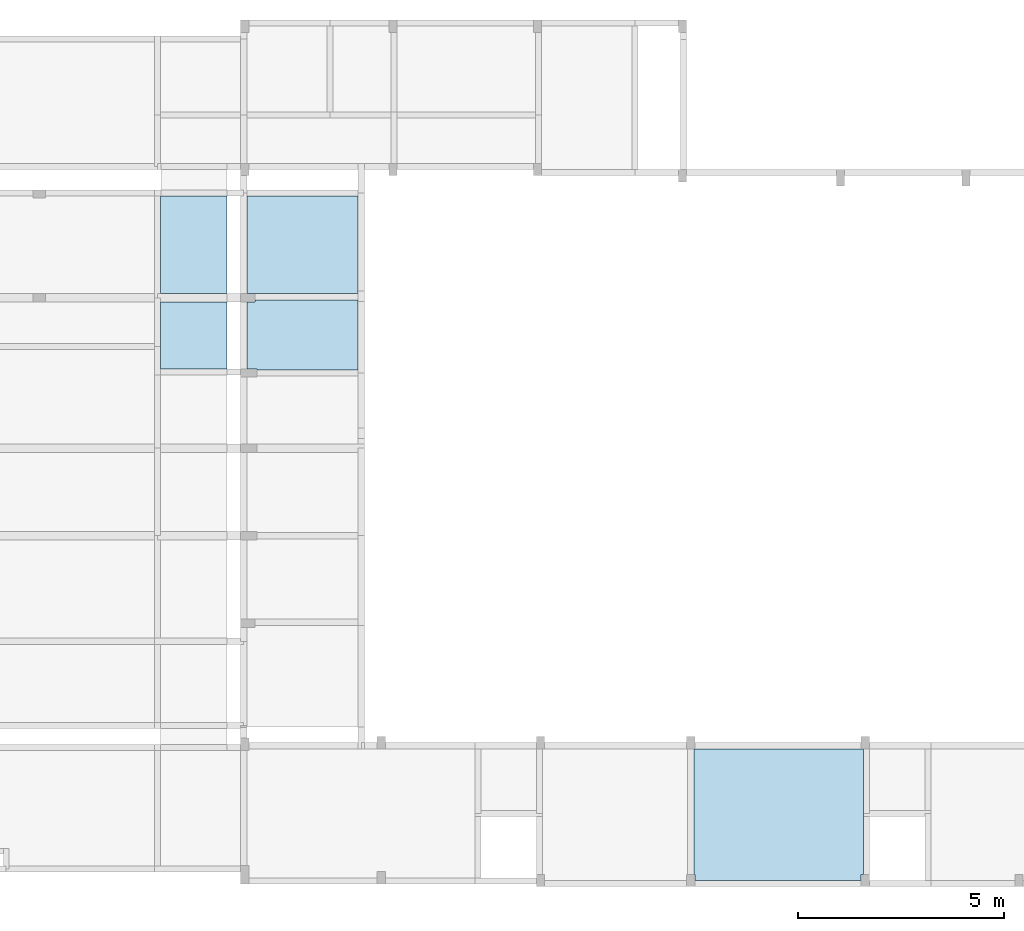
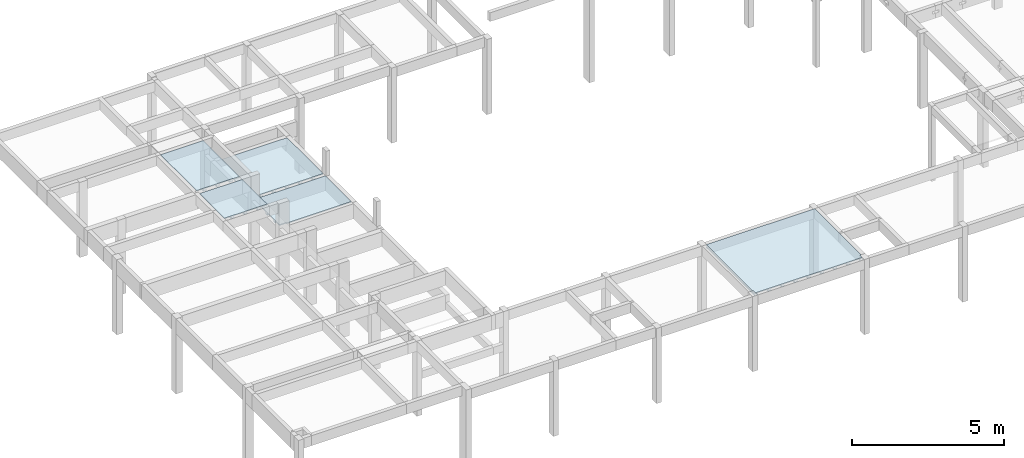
# One storey, part 13 of 21: 5 slabs.
"""IFC4 building model written with IfcOpenShell, lengths in centimetres."""

import ifcopenshell
import ifcopenshell.guid

model = None  # the IFC model being written
_history = None  # IfcOwnerHistory: only IFC2X3 demands one
_inside = {}  # id of a spatial element -> (the spatial element, [elements in it])
_under = {}  # id of a project, library or spatial element -> (it, [spatial elements below it])
_declared = {}  # id of a project -> (the project, [libraries it declares])
_typed = {}  # id of a type object -> (the type object, [elements of that type])
_made_of = {}  # id of a material, layer set ... -> (it, [elements and type objects made of it])


def new_model(schema):
    """Start an empty IFC model of exactly this schema.

    Asked for "IFC4X3", IfcOpenShell would pick the latest addendum, in which some entities
    have other attributes; the version numbers below select the first issue.
    IFC2X3 requires an IfcOwnerHistory on every rooted entity: one is made here for all.
    """
    global model, _history
    if schema == "IFC4X3":
        model = ifcopenshell.file(schema_version=(4, 3, 0, 0))
    else:
        model = ifcopenshell.file(schema=schema)
    _inside.clear()
    _under.clear()
    _declared.clear()
    _typed.clear()
    _made_of.clear()
    _history = None
    if model.schema == "IFC2X3":
        org = make("IfcOrganization", Name="unknown")
        user = make(
            "IfcPersonAndOrganization",
            ThePerson=make("IfcPerson", FamilyName="unknown"),
            TheOrganization=org,
        )
        app = make(
            "IfcApplication",
            ApplicationDeveloper=org,
            Version="unknown",
            ApplicationFullName="unknown",
            ApplicationIdentifier="unknown",
        )
        _history = make(
            "IfcOwnerHistory",
            OwningUser=user,
            OwningApplication=app,
            ChangeAction="ADDED",
            CreationDate=0,
        )
    return model


def make(cls, **values):
    """One entity of the class cls with the attributes given. An attribute that is None is left unset."""
    return model.create_entity(
        cls, **{name: value for name, value in values.items() if value is not None}
    )


def rooted(cls, **values):
    """An entity with a GlobalId (a new one), such as an element, a storey or a relation."""
    return make(cls, GlobalId=ifcopenshell.guid.new(), OwnerHistory=_history, **values)


def si_unit(unit_type, name, prefix=None):
    """IfcSIUnit, for example si_unit("LENGTHUNIT", "METRE", prefix="MILLI")."""
    return make("IfcSIUnit", UnitType=unit_type, Prefix=prefix, Name=name)


def derived_unit(unit_type, elements):
    """IfcDerivedUnit: a product of units, each with its exponent."""
    return make(
        "IfcDerivedUnit",
        Elements=[
            make("IfcDerivedUnitElement", Unit=unit, Exponent=power)
            for unit, power in elements
        ],
        UnitType=unit_type,
    )


def assignment(units):
    """IfcUnitAssignment: the units of a project."""
    return None if units is None else make("IfcUnitAssignment", Units=units)


def point(xyz):
    """IfcCartesianPoint."""
    return None if xyz is None else make("IfcCartesianPoint", Coordinates=xyz)


def direction(xyz):
    """IfcDirection."""
    return None if xyz is None else make("IfcDirection", DirectionRatios=xyz)


def frame(location, z_axis=None, x_axis=None):
    """IfcAxis2Placement3D, a coordinate frame: its origin and axes. An axis left out is left unset."""
    return make(
        "IfcAxis2Placement3D",
        Location=point(location),
        Axis=direction(z_axis),
        RefDirection=direction(x_axis),
    )


def origin_with_axes():
    """The frame at (0, 0, 0) with the z axis (0, 0, 1) and the x axis (1, 0, 0) written out."""
    return frame((0.0, 0.0, 0.0), z_axis=(0.0, 0.0, 1.0), x_axis=(1.0, 0.0, 0.0))


def place(relative_to, where):
    """IfcLocalPlacement: puts the frame where relative to a parent placement (None: the world)."""
    return make(
        "IfcLocalPlacement", PlacementRelTo=relative_to, RelativePlacement=where
    )


def context(
    kind, dimensions, precision=None, world=None, true_north=None, identifier=None
):
    """IfcGeometricRepresentationContext, for example the 3D "Model" context."""
    return make(
        "IfcGeometricRepresentationContext",
        ContextIdentifier=identifier,
        ContextType=kind,
        CoordinateSpaceDimension=dimensions,
        Precision=precision,
        WorldCoordinateSystem=world,
        TrueNorth=true_north,
    )


def project(units=None, contexts=None):
    """IfcProject with its units and contexts."""
    return rooted(
        "IfcProject",
        Name="project",
        RepresentationContexts=contexts,
        UnitsInContext=assignment(units),
    )


def spatial(cls, under=None, at=None, **own):
    """A site, building, storey or space (cls), placed at a placement, below another one or the project."""
    s = rooted(cls, ObjectPlacement=at, **own)
    if under is not None:
        _under.setdefault(under.id(), (under, []))[1].append(s)
    return s


def polyline(points):
    """IfcPolyline through the points."""
    return make("IfcPolyline", Points=[point(p) for p in points])


def outline(outer, holes=None, kind="AREA"):
    """IfcArbitraryClosedProfileDef: a profile drawn as a closed curve; with holes, ...WithVoids."""
    if holes is None:
        return make("IfcArbitraryClosedProfileDef", ProfileType=kind, OuterCurve=outer)
    return make(
        "IfcArbitraryProfileDefWithVoids",
        ProfileType=kind,
        OuterCurve=outer,
        InnerCurves=holes,
    )


def extrude(swept, where, along, depth):
    """IfcExtrudedAreaSolid: the profile swept, set in the frame where, extruded along a direction by depth."""
    return make(
        "IfcExtrudedAreaSolid",
        SweptArea=swept,
        Position=where,
        ExtrudedDirection=direction(along),
        Depth=depth,
    )


def faces_of(points, faces, orient=None, outer=None):
    """IfcFace entities. A face is a list of loops; a loop is a list of indices into points, from 0.

    orient and outer hold one flag for each loop. By default every Orientation is true, the
    first loop of a face is its IfcFaceOuterBound and the others are IfcFaceBound.
    """
    made = []
    for i, loops in enumerate(faces):
        bounds = []
        for j, loop in enumerate(loops):
            is_outer = j == 0 if outer is None else outer[i][j]
            bounds.append(
                make(
                    "IfcFaceOuterBound" if is_outer else "IfcFaceBound",
                    Bound=make("IfcPolyLoop", Polygon=[points[k] for k in loop]),
                    Orientation=True if orient is None else orient[i][j],
                )
            )
        made.append(make("IfcFace", Bounds=bounds))
    return made


def faceted_brep(points, faces, orient=None, outer=None, voids=None):
    """IfcFacetedBrep: a solid bounded by flat faces; with voids (closed shells), ...WithVoids."""
    shared = [point(p) for p in points]
    hull = make("IfcClosedShell", CfsFaces=faces_of(shared, faces, orient, outer))
    if voids is None:
        return make("IfcFacetedBrep", Outer=hull)
    return make(
        "IfcFacetedBrepWithVoids",
        Outer=hull,
        Voids=[
            make(cls, CfsFaces=faces_of(shared, fs, o, b)) for cls, fs, o, b in voids
        ],
    )


def shape(context_of_items, identifier, shape_type, items):
    """IfcShapeRepresentation: the items that make up one representation, for example the "Body"."""
    return make(
        "IfcShapeRepresentation",
        ContextOfItems=context_of_items,
        RepresentationIdentifier=identifier,
        RepresentationType=shape_type,
        Items=items,
    )


def material(Name=None, Category=None):
    """IfcMaterial."""
    return make("IfcMaterial", Name=Name, Category=Category)


def made_of(thing, what):
    """Note that an element or type object is made of a material, layer set ...; save() writes the relation."""
    if what is not None:
        _made_of.setdefault(what.id(), (what, []))[1].append(thing)
    return thing


def element(
    cls,
    number,
    at=None,
    inside=None,
    cuts=None,
    type_object=None,
    material=None,
    context=None,
    identifier="Body",
    shape_type=None,
    held_by="IfcProductDefinitionShape",
    body=None,
    shapes=None,
    **own,
):
    """One element of the class cls, such as IfcWall. Its Tag is "e" and its number.

    at: its placement. inside: the storey or other place that contains it. cuts: it is an
    opening in that element (IfcRelVoidsElement). A single representation is given by context,
    identifier, shape_type and body (its items); several are given by shapes. held_by: the class
    of the entity that holds the representations. save() writes the other relations.
    """
    e = rooted(cls, Tag="e%d" % number, ObjectPlacement=at, **own)
    if body is not None:
        shapes = [shape(context, identifier, shape_type, body)]
    if shapes is not None:
        e.Representation = make(held_by, Representations=shapes)
    if inside is not None:
        _inside.setdefault(inside.id(), (inside, []))[1].append(e)
    if cuts is not None:
        rooted(
            "IfcRelVoidsElement", RelatingBuildingElement=cuts, RelatedOpeningElement=e
        )
    if type_object is not None:
        _typed.setdefault(type_object.id(), (type_object, []))[1].append(e)
    return made_of(e, material)


def aggregate(whole, parts):
    """IfcRelAggregates: a whole, such as a stair, and the parts it consists of."""
    return rooted("IfcRelAggregates", RelatingObject=whole, RelatedObjects=parts)


def save(model, path):
    """Write the relations noted so far, then the file.

    IfcRelAggregates (storeys below a building ...), IfcRelContainedInSpatialStructure (elements
    in a storey), IfcRelDefinesByType, IfcRelAssociatesMaterial and IfcRelDeclares: one each for
    every whole, place, type object, material and project.
    """
    for whole, parts in _under.values():
        aggregate(whole, parts)
    for where, things in _inside.values():
        rooted(
            "IfcRelContainedInSpatialStructure",
            RelatedElements=things,
            RelatingStructure=where,
        )
    for kind, things in _typed.values():
        rooted("IfcRelDefinesByType", RelatedObjects=things, RelatingType=kind)
    for what, things in _made_of.values():
        rooted("IfcRelAssociatesMaterial", RelatedObjects=things, RelatingMaterial=what)
    for by, libraries in _declared.values():
        rooted("IfcRelDeclares", RelatingContext=by, RelatedDefinitions=libraries)
    model.write(path)


model = new_model("IFC4")

# Units and contexts
model_context = context("Model", 3, precision=1e-05, world=origin_with_axes(), identifier="Body")
ifc_project = project(units=[si_unit("LENGTHUNIT", "METRE", prefix="CENTI"), si_unit("VOLUMEUNIT", "CUBIC_METRE"), si_unit("AREAUNIT", "SQUARE_METRE"), si_unit("POWERUNIT", "WATT"), si_unit("LUMINOUSFLUXUNIT", "LUMEN"), si_unit("ELECTRICCURRENTUNIT", "AMPERE"), si_unit("PRESSUREUNIT", "PASCAL", prefix="KILO"), si_unit("MASSUNIT", "GRAM", prefix="KILO"), si_unit("PLANEANGLEUNIT", "RADIAN"), derived_unit("VOLUMETRICFLOWRATEUNIT", [(si_unit("LENGTHUNIT", "METRE"), 3), (si_unit("TIMEUNIT", "SECOND"), -1)])], contexts=[model_context])

# Site, building, storey
site_placement = place(None, origin_with_axes())
site = spatial("IfcSite", under=ifc_project, at=site_placement)
building_placement = place(site_placement, frame((0.0, 0.0, -295.0)))
building = spatial("IfcBuilding", under=site, at=building_placement)
placement_1 = place(building_placement, origin_with_axes())
placement_2 = place(placement_1, frame((0.0, 0.0, 101.0), z_axis=(0.0, 0.0, 1.0), x_axis=(1.0, 0.0, 0.0)))
placement_3 = place(placement_2, frame((0.0, 0.0, 204.0), z_axis=(0.0, 0.0, 1.0), x_axis=(1.0, 0.0, 0.0)))
placement_4 = place(placement_3, frame((0.0, 0.0, 292.0), z_axis=(0.0, 0.0, 1.0), x_axis=(1.0, 0.0, 0.0)))
storey_placement = place(placement_4, frame((0.0, 0.0, 302.0), z_axis=(0.0, 0.0, 1.0), x_axis=(1.0, 0.0, 0.0)))
storey = spatial("IfcBuildingStorey", under=building, at=storey_placement, Name="PAVTO 02", CompositionType="ELEMENT", Elevation=604.0)

# Slabs
ifc_material = material(Name="Concreto")
slab_1_placement = place(storey_placement, frame((1059.9855, -5618.0, 0.0), z_axis=(0.0, 0.0, 1.0), x_axis=(1.0, 0.0, 0.0)))
element("IfcSlab", 1, at=slab_1_placement, inside=storey, material=ifc_material, Name="L214", PredefinedType="FLOOR", context=model_context, shape_type="SolidModel", body=[
    extrude(outline(polyline([(80.915, 118.84), (-80.914, 118.839), (-80.914, -118.839), (80.915, -118.84), (80.915, 118.84), (80.915, 118.84)])), frame((-0.0005, 0.0, -4.0), z_axis=(0.0, 0.0, 1.0), x_axis=(1.0, 0.0, 0.0)), (0.0, 0.0, 1.0), 4.0),
    faceted_brep([(-5.0005, -118.8395, -12.0), (-5.0005, 118.8395, -12.0), (4.9995, 118.8395, -12.0), (4.9995, -118.8395, -12.0), (4.9995, -118.8395, -4.0), (4.9995, 118.8395, -4.0), (-5.0005, 118.8395, -4.0), (-5.0005, -118.8395, -4.0)], [[[0, 1, 2, 3]], [[4, 5, 6, 7]], [[4, 3, 5]], [[3, 2, 5]], [[5, 2, 6]], [[2, 1, 6]], [[6, 1, 7]], [[1, 0, 7]], [[7, 0, 4]], [[0, 3, 4]]]),
    faceted_brep([(-6.5005, -118.8395, -12.0), (-6.5005, 118.8395, -12.0), (-5.0005, 118.8395, -12.0), (-5.0005, -118.8395, -12.0), (-5.0005, -118.8395, -9.0), (-5.0005, 118.8395, -9.0), (-6.5005, 118.8395, -9.0), (-6.5005, -118.8395, -9.0)], [[[0, 1, 2, 3]], [[4, 5, 6, 7]], [[4, 3, 5]], [[3, 2, 5]], [[5, 2, 6]], [[2, 1, 6]], [[6, 1, 7]], [[1, 0, 7]], [[7, 0, 4]], [[0, 3, 4]]]),
    faceted_brep([(4.9995, -118.8395, -12.0), (4.9995, 118.8395, -12.0), (6.4995, 118.8395, -12.0), (6.4995, -118.8395, -12.0), (6.4995, -118.8395, -9.0), (6.4995, 118.8395, -9.0), (4.9995, 118.8395, -9.0), (4.9995, -118.8395, -9.0)], [[[0, 1, 2, 3]], [[4, 5, 6, 7]], [[4, 3, 5]], [[3, 2, 5]], [[5, 2, 6]], [[2, 1, 6]], [[6, 1, 7]], [[1, 0, 7]], [[7, 0, 4]], [[0, 3, 4]]]),
    faceted_brep([(-55.0005, -118.8395, -12.0), (-55.0005, 118.8395, -12.0), (-45.0005, 118.8395, -12.0), (-45.0005, -118.8395, -12.0), (-45.0005, -118.8395, -4.0), (-45.0005, 118.8395, -4.0), (-55.0005, 118.8395, -4.0), (-55.0005, -118.8395, -4.0)], [[[0, 1, 2, 3]], [[4, 5, 6, 7]], [[4, 3, 5]], [[3, 2, 5]], [[5, 2, 6]], [[2, 1, 6]], [[6, 1, 7]], [[1, 0, 7]], [[7, 0, 4]], [[0, 3, 4]]]),
    faceted_brep([(-56.5005, -118.8395, -12.0), (-56.5005, 118.8395, -12.0), (-55.0005, 118.8395, -12.0), (-55.0005, -118.8395, -12.0), (-55.0005, -118.8395, -9.0), (-55.0005, 118.8395, -9.0), (-56.5005, 118.8395, -9.0), (-56.5005, -118.8395, -9.0)], [[[0, 1, 2, 3]], [[4, 5, 6, 7]], [[4, 3, 5]], [[3, 2, 5]], [[5, 2, 6]], [[2, 1, 6]], [[6, 1, 7]], [[1, 0, 7]], [[7, 0, 4]], [[0, 3, 4]]]),
    faceted_brep([(-45.0005, -118.8395, -12.0), (-45.0005, 118.8395, -12.0), (-43.5005, 118.8395, -12.0), (-43.5005, -118.8395, -12.0), (-43.5005, -118.8395, -9.0), (-43.5005, 118.8395, -9.0), (-45.0005, 118.8395, -9.0), (-45.0005, -118.8395, -9.0)], [[[0, 1, 2, 3]], [[4, 5, 6, 7]], [[4, 3, 5]], [[3, 2, 5]], [[5, 2, 6]], [[2, 1, 6]], [[6, 1, 7]], [[1, 0, 7]], [[7, 0, 4]], [[0, 3, 4]]]),
    faceted_brep([(44.9995, -118.8395, -12.0), (44.9995, 118.8395, -12.0), (54.9995, 118.8395, -12.0), (54.9995, -118.8395, -12.0), (54.9995, -118.8395, -4.0), (54.9995, 118.8395, -4.0), (44.9995, 118.8395, -4.0), (44.9995, -118.8395, -4.0)], [[[0, 1, 2, 3]], [[4, 5, 6, 7]], [[4, 3, 5]], [[3, 2, 5]], [[5, 2, 6]], [[2, 1, 6]], [[6, 1, 7]], [[1, 0, 7]], [[7, 0, 4]], [[0, 3, 4]]]),
    faceted_brep([(43.4995, -118.8395, -12.0), (43.4995, 118.8395, -12.0), (44.9995, 118.8395, -12.0), (44.9995, -118.8395, -12.0), (44.9995, -118.8395, -9.0), (44.9995, 118.8395, -9.0), (43.4995, 118.8395, -9.0), (43.4995, -118.8395, -9.0)], [[[0, 1, 2, 3]], [[4, 5, 6, 7]], [[4, 3, 5]], [[3, 2, 5]], [[5, 2, 6]], [[2, 1, 6]], [[6, 1, 7]], [[1, 0, 7]], [[7, 0, 4]], [[0, 3, 4]]]),
    faceted_brep([(54.9995, -118.8395, -12.0), (54.9995, 118.8395, -12.0), (56.4995, 118.8395, -12.0), (56.4995, -118.8395, -12.0), (56.4995, -118.8395, -9.0), (56.4995, 118.8395, -9.0), (54.9995, 118.8395, -9.0), (54.9995, -118.8395, -9.0)], [[[0, 1, 2, 3]], [[4, 5, 6, 7]], [[4, 3, 5]], [[3, 2, 5]], [[5, 2, 6]], [[2, 1, 6]], [[6, 1, 7]], [[1, 0, 7]], [[7, 0, 4]], [[0, 3, 4]]]),
])
slab_2_placement = place(storey_placement, frame((1059.985, -5838.3455, 0.0), z_axis=(0.0, 0.0, 1.0), x_axis=(1.0, 0.0, 0.0)))
element("IfcSlab", 2, at=slab_2_placement, inside=storey, material=ifc_material, Name="L218", PredefinedType="FLOOR", context=model_context, shape_type="SolidModel", body=[
    extrude(outline(polyline([(80.915, 81.504), (-80.915, 81.504), (-80.915, -81.505), (80.915, -81.505), (80.915, 81.504), (80.915, 81.504)])), frame((0.0, 0.0005, -4.0), z_axis=(0.0, 0.0, 1.0), x_axis=(1.0, 0.0, 0.0)), (0.0, 0.0, 1.0), 4.0),
    faceted_brep([(-5.0, -81.5045, -12.0), (-5.0, 81.5045, -12.0), (5.0, 81.5045, -12.0), (5.0, -81.5045, -12.0), (5.0, -81.5045, -4.0), (5.0, 81.5045, -4.0), (-5.0, 81.5045, -4.0), (-5.0, -81.5045, -4.0)], [[[0, 1, 2, 3]], [[4, 5, 6, 7]], [[4, 3, 5]], [[3, 2, 5]], [[5, 2, 6]], [[2, 1, 6]], [[6, 1, 7]], [[1, 0, 7]], [[7, 0, 4]], [[0, 3, 4]]]),
    faceted_brep([(-6.5, -81.5045, -12.0), (-6.5, 81.5045, -12.0), (-5.0, 81.5045, -12.0), (-5.0, -81.5045, -12.0), (-5.0, -81.5045, -9.0), (-5.0, 81.5045, -9.0), (-6.5, 81.5045, -9.0), (-6.5, -81.5045, -9.0)], [[[0, 1, 2, 3]], [[4, 5, 6, 7]], [[4, 3, 5]], [[3, 2, 5]], [[5, 2, 6]], [[2, 1, 6]], [[6, 1, 7]], [[1, 0, 7]], [[7, 0, 4]], [[0, 3, 4]]]),
    faceted_brep([(5.0, -81.5045, -12.0), (5.0, 81.5045, -12.0), (6.5, 81.5045, -12.0), (6.5, -81.5045, -12.0), (6.5, -81.5045, -9.0), (6.5, 81.5045, -9.0), (5.0, 81.5045, -9.0), (5.0, -81.5045, -9.0)], [[[0, 1, 2, 3]], [[4, 5, 6, 7]], [[4, 3, 5]], [[3, 2, 5]], [[5, 2, 6]], [[2, 1, 6]], [[6, 1, 7]], [[1, 0, 7]], [[7, 0, 4]], [[0, 3, 4]]]),
    faceted_brep([(-55.0, -81.5045, -12.0), (-55.0, 81.5045, -12.0), (-45.0, 81.5045, -12.0), (-45.0, -81.5045, -12.0), (-45.0, -81.5045, -4.0), (-45.0, 81.5045, -4.0), (-55.0, 81.5045, -4.0), (-55.0, -81.5045, -4.0)], [[[0, 1, 2, 3]], [[4, 5, 6, 7]], [[4, 3, 5]], [[3, 2, 5]], [[5, 2, 6]], [[2, 1, 6]], [[6, 1, 7]], [[1, 0, 7]], [[7, 0, 4]], [[0, 3, 4]]]),
    faceted_brep([(-56.5, -81.5045, -12.0), (-56.5, 81.5045, -12.0), (-55.0, 81.5045, -12.0), (-55.0, -81.5045, -12.0), (-55.0, -81.5045, -9.0), (-55.0, 81.5045, -9.0), (-56.5, 81.5045, -9.0), (-56.5, -81.5045, -9.0)], [[[0, 1, 2, 3]], [[4, 5, 6, 7]], [[4, 3, 5]], [[3, 2, 5]], [[5, 2, 6]], [[2, 1, 6]], [[6, 1, 7]], [[1, 0, 7]], [[7, 0, 4]], [[0, 3, 4]]]),
    faceted_brep([(-45.0, -81.5045, -12.0), (-45.0, 81.5045, -12.0), (-43.5, 81.5045, -12.0), (-43.5, -81.5045, -12.0), (-43.5, -81.5045, -9.0), (-43.5, 81.5045, -9.0), (-45.0, 81.5045, -9.0), (-45.0, -81.5045, -9.0)], [[[0, 1, 2, 3]], [[4, 5, 6, 7]], [[4, 3, 5]], [[3, 2, 5]], [[5, 2, 6]], [[2, 1, 6]], [[6, 1, 7]], [[1, 0, 7]], [[7, 0, 4]], [[0, 3, 4]]]),
    faceted_brep([(45.0, -81.5045, -12.0), (45.0, 81.5045, -12.0), (55.0, 81.5045, -12.0), (55.0, -81.5045, -12.0), (55.0, -81.5045, -4.0), (55.0, 81.5045, -4.0), (45.0, 81.5045, -4.0), (45.0, -81.5045, -4.0)], [[[0, 1, 2, 3]], [[4, 5, 6, 7]], [[4, 3, 5]], [[3, 2, 5]], [[5, 2, 6]], [[2, 1, 6]], [[6, 1, 7]], [[1, 0, 7]], [[7, 0, 4]], [[0, 3, 4]]]),
    faceted_brep([(43.5, -81.5045, -12.0), (43.5, 81.5045, -12.0), (45.0, 81.5045, -12.0), (45.0, -81.5045, -12.0), (45.0, -81.5045, -9.0), (45.0, 81.5045, -9.0), (43.5, 81.5045, -9.0), (43.5, -81.5045, -9.0)], [[[0, 1, 2, 3]], [[4, 5, 6, 7]], [[4, 3, 5]], [[3, 2, 5]], [[5, 2, 6]], [[2, 1, 6]], [[6, 1, 7]], [[1, 0, 7]], [[7, 0, 4]], [[0, 3, 4]]]),
    faceted_brep([(55.0, -81.5045, -12.0), (55.0, 81.5045, -12.0), (56.5, 81.5045, -12.0), (56.5, -81.5045, -12.0), (56.5, -81.5045, -9.0), (56.5, 81.5045, -9.0), (55.0, 81.5045, -9.0), (55.0, -81.5045, -9.0)], [[[0, 1, 2, 3]], [[4, 5, 6, 7]], [[4, 3, 5]], [[3, 2, 5]], [[5, 2, 6]], [[2, 1, 6]], [[6, 1, 7]], [[1, 0, 7]], [[7, 0, 4]], [[0, 3, 4]]]),
])
slab_3_placement = place(storey_placement, frame((2482.415, -7004.254998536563, 0.0), z_axis=(0.0, 0.0, 1.0), x_axis=(1.0, 0.0, 0.0)))
element("IfcSlab", 3, at=slab_3_placement, inside=storey, material=ifc_material, Name="L241", PredefinedType="FLOOR", context=model_context, shape_type="SolidModel", body=[
    extrude(outline(polyline([(201.184, -145.055), (206.184, -145.054), (206.184, 160.055), (-206.184, 160.055), (-206.185, -145.054), (-203.684, -145.055), (-203.684, -160.054), (201.185, -160.055), (201.184, -145.055), (201.184, -145.055)])), frame((0.0, 0.0, -4.0), z_axis=(0.0, 0.0, 1.0), x_axis=(1.0, 0.0, 0.0)), (0.0, 0.0, 1.0), 4.0),
    faceted_brep([(-5.0, -160.0545014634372, -12.0), (-5.0, 160.0549985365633, -12.0), (5.0, 160.0549985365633, -12.0), (5.0, -160.0545014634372, -12.0), (5.0, -160.0545014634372, -4.0), (5.0, 160.0549985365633, -4.0), (-5.0, 160.0549985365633, -4.0), (-5.0, -160.0545014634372, -4.0)], [[[0, 1, 2, 3]], [[4, 5, 6, 7]], [[4, 3, 5]], [[3, 2, 5]], [[5, 2, 6]], [[2, 1, 6]], [[6, 1, 7]], [[1, 0, 7]], [[7, 0, 4]], [[0, 3, 4]]]),
    faceted_brep([(-6.5, -160.0545014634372, -12.0), (-6.5, 160.0549985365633, -12.0), (-5.0, 160.0549985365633, -12.0), (-5.0, -160.0545014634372, -12.0), (-5.0, -160.0545014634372, -9.0), (-5.0, 160.0549985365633, -9.0), (-6.5, 160.0549985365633, -9.0), (-6.5, -160.0545014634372, -9.0)], [[[0, 1, 2, 3]], [[4, 5, 6, 7]], [[4, 3, 5]], [[3, 2, 5]], [[5, 2, 6]], [[2, 1, 6]], [[6, 1, 7]], [[1, 0, 7]], [[7, 0, 4]], [[0, 3, 4]]]),
    faceted_brep([(5.0, -160.0545014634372, -12.0), (5.0, 160.0549985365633, -12.0), (6.5, 160.0549985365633, -12.0), (6.5, -160.0545014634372, -12.0), (6.5, -160.0545014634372, -9.0), (6.5, 160.0549985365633, -9.0), (5.0, 160.0549985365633, -9.0), (5.0, -160.0545014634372, -9.0)], [[[0, 1, 2, 3]], [[4, 5, 6, 7]], [[4, 3, 5]], [[3, 2, 5]], [[5, 2, 6]], [[2, 1, 6]], [[6, 1, 7]], [[1, 0, 7]], [[7, 0, 4]], [[0, 3, 4]]]),
    faceted_brep([(-55.0, -160.0545014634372, -12.0), (-55.0, 160.0549985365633, -12.0), (-45.0, 160.0549985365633, -12.0), (-45.0, -160.0545014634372, -12.0), (-45.0, -160.0545014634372, -4.0), (-45.0, 160.0549985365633, -4.0), (-55.0, 160.0549985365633, -4.0), (-55.0, -160.0545014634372, -4.0)], [[[0, 1, 2, 3]], [[4, 5, 6, 7]], [[4, 3, 5]], [[3, 2, 5]], [[5, 2, 6]], [[2, 1, 6]], [[6, 1, 7]], [[1, 0, 7]], [[7, 0, 4]], [[0, 3, 4]]]),
    faceted_brep([(-56.5, -160.0545014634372, -12.0), (-56.5, 160.0549985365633, -12.0), (-55.0, 160.0549985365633, -12.0), (-55.0, -160.0545014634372, -12.0), (-55.0, -160.0545014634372, -9.0), (-55.0, 160.0549985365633, -9.0), (-56.5, 160.0549985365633, -9.0), (-56.5, -160.0545014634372, -9.0)], [[[0, 1, 2, 3]], [[4, 5, 6, 7]], [[4, 3, 5]], [[3, 2, 5]], [[5, 2, 6]], [[2, 1, 6]], [[6, 1, 7]], [[1, 0, 7]], [[7, 0, 4]], [[0, 3, 4]]]),
    faceted_brep([(-45.0, -160.0545014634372, -12.0), (-45.0, 160.0549985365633, -12.0), (-43.5, 160.0549985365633, -12.0), (-43.5, -160.0545014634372, -12.0), (-43.5, -160.0545014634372, -9.0), (-43.5, 160.0549985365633, -9.0), (-45.0, 160.0549985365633, -9.0), (-45.0, -160.0545014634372, -9.0)], [[[0, 1, 2, 3]], [[4, 5, 6, 7]], [[4, 3, 5]], [[3, 2, 5]], [[5, 2, 6]], [[2, 1, 6]], [[6, 1, 7]], [[1, 0, 7]], [[7, 0, 4]], [[0, 3, 4]]]),
    faceted_brep([(-105.0, -160.0545014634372, -12.0), (-105.0, 160.0549985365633, -12.0), (-95.0, 160.0549985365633, -12.0), (-95.0, -160.0545014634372, -12.0), (-95.0, -160.0545014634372, -4.0), (-95.0, 160.0549985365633, -4.0), (-105.0, 160.0549985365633, -4.0), (-105.0, -160.0545014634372, -4.0)], [[[0, 1, 2, 3]], [[4, 5, 6, 7]], [[4, 3, 5]], [[3, 2, 5]], [[5, 2, 6]], [[2, 1, 6]], [[6, 1, 7]], [[1, 0, 7]], [[7, 0, 4]], [[0, 3, 4]]]),
    faceted_brep([(-106.5, -160.0545014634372, -12.0), (-106.5, 160.0549985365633, -12.0), (-105.0, 160.0549985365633, -12.0), (-105.0, -160.0545014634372, -12.0), (-105.0, -160.0545014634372, -9.0), (-105.0, 160.0549985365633, -9.0), (-106.5, 160.0549985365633, -9.0), (-106.5, -160.0545014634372, -9.0)], [[[0, 1, 2, 3]], [[4, 5, 6, 7]], [[4, 3, 5]], [[3, 2, 5]], [[5, 2, 6]], [[2, 1, 6]], [[6, 1, 7]], [[1, 0, 7]], [[7, 0, 4]], [[0, 3, 4]]]),
    faceted_brep([(-95.0, -160.0545014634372, -12.0), (-95.0, 160.0549985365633, -12.0), (-93.5, 160.0549985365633, -12.0), (-93.5, -160.0545014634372, -12.0), (-93.5, -160.0545014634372, -9.0), (-93.5, 160.0549985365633, -9.0), (-95.0, 160.0549985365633, -9.0), (-95.0, -160.0545014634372, -9.0)], [[[0, 1, 2, 3]], [[4, 5, 6, 7]], [[4, 3, 5]], [[3, 2, 5]], [[5, 2, 6]], [[2, 1, 6]], [[6, 1, 7]], [[1, 0, 7]], [[7, 0, 4]], [[0, 3, 4]]]),
    faceted_brep([(-155.0, -160.0545014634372, -12.0), (-155.0, 160.0549985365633, -12.0), (-145.0, 160.0549985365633, -12.0), (-145.0, -160.0545014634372, -12.0), (-145.0, -160.0545014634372, -4.0), (-145.0, 160.0549985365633, -4.0), (-155.0, 160.0549985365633, -4.0), (-155.0, -160.0545014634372, -4.0)], [[[0, 1, 2, 3]], [[4, 5, 6, 7]], [[4, 3, 5]], [[3, 2, 5]], [[5, 2, 6]], [[2, 1, 6]], [[6, 1, 7]], [[1, 0, 7]], [[7, 0, 4]], [[0, 3, 4]]]),
    faceted_brep([(-156.5, -160.0545014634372, -12.0), (-156.5, 160.0549985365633, -12.0), (-155.0, 160.0549985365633, -12.0), (-155.0, -160.0545014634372, -12.0), (-155.0, -160.0545014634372, -9.0), (-155.0, 160.0549985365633, -9.0), (-156.5, 160.0549985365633, -9.0), (-156.5, -160.0545014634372, -9.0)], [[[0, 1, 2, 3]], [[4, 5, 6, 7]], [[4, 3, 5]], [[3, 2, 5]], [[5, 2, 6]], [[2, 1, 6]], [[6, 1, 7]], [[1, 0, 7]], [[7, 0, 4]], [[0, 3, 4]]]),
    faceted_brep([(-145.0, -160.0545014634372, -12.0), (-145.0, 160.0549985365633, -12.0), (-143.5, 160.0549985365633, -12.0), (-143.5, -160.0545014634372, -12.0), (-143.5, -160.0545014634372, -9.0), (-143.5, 160.0549985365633, -9.0), (-145.0, 160.0549985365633, -9.0), (-145.0, -160.0545014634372, -9.0)], [[[0, 1, 2, 3]], [[4, 5, 6, 7]], [[4, 3, 5]], [[3, 2, 5]], [[5, 2, 6]], [[2, 1, 6]], [[6, 1, 7]], [[1, 0, 7]], [[7, 0, 4]], [[0, 3, 4]]]),
    faceted_brep([(-205.0, -145.0545014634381, -12.0), (-205.0, 160.0549985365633, -12.0), (-195.0, 160.0549985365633, -12.0), (-195.0, -160.0545014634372, -12.0), (-195.0, -160.0545014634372, -4.0), (-195.0, 160.0549985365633, -4.0), (-205.0, 160.0549985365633, -4.0), (-205.0, -145.0545014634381, -4.0)], [[[0, 1, 2, 3]], [[4, 5, 6, 7]], [[4, 3, 5]], [[3, 2, 5]], [[5, 2, 6]], [[2, 1, 6]], [[6, 1, 7]], [[1, 0, 7]], [[7, 0, 4]], [[0, 3, 4]]]),
    faceted_brep([(-206.5, -160.0540105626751, -12.0), (-206.5, 160.0549985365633, -12.0), (-205.0, 160.0549985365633, -12.0), (-205.0, -160.0540105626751, -12.0), (-205.0, -160.0540105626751, -9.0), (-205.0, 160.0549985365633, -9.0), (-206.5, 160.0549985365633, -9.0), (-206.5, -160.0540105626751, -9.0)], [[[0, 1, 2, 3]], [[4, 5, 6, 7]], [[4, 3, 5]], [[3, 2, 5]], [[5, 2, 6]], [[2, 1, 6]], [[6, 1, 7]], [[1, 0, 7]], [[7, 0, 4]], [[0, 3, 4]]]),
    faceted_brep([(-195.0, -160.0545014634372, -12.0), (-195.0, 160.0549985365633, -12.0), (-193.5, 160.0549985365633, -12.0), (-193.5, -160.0545014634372, -12.0), (-193.5, -160.0545014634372, -9.0), (-193.5, 160.0549985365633, -9.0), (-195.0, 160.0549985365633, -9.0), (-195.0, -160.0545014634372, -9.0)], [[[0, 1, 2, 3]], [[4, 5, 6, 7]], [[4, 3, 5]], [[3, 2, 5]], [[5, 2, 6]], [[2, 1, 6]], [[6, 1, 7]], [[1, 0, 7]], [[7, 0, 4]], [[0, 3, 4]]]),
    faceted_brep([(45.0, -160.0545014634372, -12.0), (45.0, 160.0549985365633, -12.0), (55.0, 160.0549985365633, -12.0), (55.0, -160.0545014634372, -12.0), (55.0, -160.0545014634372, -4.0), (55.0, 160.0549985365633, -4.0), (45.0, 160.0549985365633, -4.0), (45.0, -160.0545014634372, -4.0)], [[[0, 1, 2, 3]], [[4, 5, 6, 7]], [[4, 3, 5]], [[3, 2, 5]], [[5, 2, 6]], [[2, 1, 6]], [[6, 1, 7]], [[1, 0, 7]], [[7, 0, 4]], [[0, 3, 4]]]),
    faceted_brep([(43.5, -160.0545014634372, -12.0), (43.5, 160.0549985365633, -12.0), (45.0, 160.0549985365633, -12.0), (45.0, -160.0545014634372, -12.0), (45.0, -160.0545014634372, -9.0), (45.0, 160.0549985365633, -9.0), (43.5, 160.0549985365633, -9.0), (43.5, -160.0545014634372, -9.0)], [[[0, 1, 2, 3]], [[4, 5, 6, 7]], [[4, 3, 5]], [[3, 2, 5]], [[5, 2, 6]], [[2, 1, 6]], [[6, 1, 7]], [[1, 0, 7]], [[7, 0, 4]], [[0, 3, 4]]]),
    faceted_brep([(55.0, -160.0545014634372, -12.0), (55.0, 160.0549985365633, -12.0), (56.5, 160.0549985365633, -12.0), (56.5, -160.0545014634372, -12.0), (56.5, -160.0545014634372, -9.0), (56.5, 160.0549985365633, -9.0), (55.0, 160.0549985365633, -9.0), (55.0, -160.0545014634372, -9.0)], [[[0, 1, 2, 3]], [[4, 5, 6, 7]], [[4, 3, 5]], [[3, 2, 5]], [[5, 2, 6]], [[2, 1, 6]], [[6, 1, 7]], [[1, 0, 7]], [[7, 0, 4]], [[0, 3, 4]]]),
    faceted_brep([(95.0, -160.0545014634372, -12.0), (95.0, 160.0549985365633, -12.0), (105.0, 160.0549985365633, -12.0), (105.0, -160.0545014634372, -12.0), (105.0, -160.0545014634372, -4.0), (105.0, 160.0549985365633, -4.0), (95.0, 160.0549985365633, -4.0), (95.0, -160.0545014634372, -4.0)], [[[0, 1, 2, 3]], [[4, 5, 6, 7]], [[4, 3, 5]], [[3, 2, 5]], [[5, 2, 6]], [[2, 1, 6]], [[6, 1, 7]], [[1, 0, 7]], [[7, 0, 4]], [[0, 3, 4]]]),
    faceted_brep([(93.5, -160.0545014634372, -12.0), (93.5, 160.0549985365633, -12.0), (95.0, 160.0549985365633, -12.0), (95.0, -160.0545014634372, -12.0), (95.0, -160.0545014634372, -9.0), (95.0, 160.0549985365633, -9.0), (93.5, 160.0549985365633, -9.0), (93.5, -160.0545014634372, -9.0)], [[[0, 1, 2, 3]], [[4, 5, 6, 7]], [[4, 3, 5]], [[3, 2, 5]], [[5, 2, 6]], [[2, 1, 6]], [[6, 1, 7]], [[1, 0, 7]], [[7, 0, 4]], [[0, 3, 4]]]),
    faceted_brep([(105.0, -160.0545014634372, -12.0), (105.0, 160.0549985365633, -12.0), (106.5, 160.0549985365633, -12.0), (106.5, -160.0545014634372, -12.0), (106.5, -160.0545014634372, -9.0), (106.5, 160.0549985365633, -9.0), (105.0, 160.0549985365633, -9.0), (105.0, -160.0545014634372, -9.0)], [[[0, 1, 2, 3]], [[4, 5, 6, 7]], [[4, 3, 5]], [[3, 2, 5]], [[5, 2, 6]], [[2, 1, 6]], [[6, 1, 7]], [[1, 0, 7]], [[7, 0, 4]], [[0, 3, 4]]]),
    faceted_brep([(145.0, -160.0545014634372, -12.0), (145.0, 160.0549985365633, -12.0), (155.0, 160.0549985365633, -12.0), (155.0, -160.0545014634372, -12.0), (155.0, -160.0545014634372, -4.0), (155.0, 160.0549985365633, -4.0), (145.0, 160.0549985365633, -4.0), (145.0, -160.0545014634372, -4.0)], [[[0, 1, 2, 3]], [[4, 5, 6, 7]], [[4, 3, 5]], [[3, 2, 5]], [[5, 2, 6]], [[2, 1, 6]], [[6, 1, 7]], [[1, 0, 7]], [[7, 0, 4]], [[0, 3, 4]]]),
    faceted_brep([(143.5, -160.0545014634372, -12.0), (143.5, 160.0549985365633, -12.0), (145.0, 160.0549985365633, -12.0), (145.0, -160.0545014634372, -12.0), (145.0, -160.0545014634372, -9.0), (145.0, 160.0549985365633, -9.0), (143.5, 160.0549985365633, -9.0), (143.5, -160.0545014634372, -9.0)], [[[0, 1, 2, 3]], [[4, 5, 6, 7]], [[4, 3, 5]], [[3, 2, 5]], [[5, 2, 6]], [[2, 1, 6]], [[6, 1, 7]], [[1, 0, 7]], [[7, 0, 4]], [[0, 3, 4]]]),
    faceted_brep([(155.0, -160.0545014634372, -12.0), (155.0, 160.0549985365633, -12.0), (156.5, 160.0549985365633, -12.0), (156.5, -160.0545014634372, -12.0), (156.5, -160.0545014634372, -9.0), (156.5, 160.0549985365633, -9.0), (155.0, 160.0549985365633, -9.0), (155.0, -160.0545014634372, -9.0)], [[[0, 1, 2, 3]], [[4, 5, 6, 7]], [[4, 3, 5]], [[3, 2, 5]], [[5, 2, 6]], [[2, 1, 6]], [[6, 1, 7]], [[1, 0, 7]], [[7, 0, 4]], [[0, 3, 4]]]),
    faceted_brep([(195.0, -160.0545014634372, -12.0), (195.0, 160.0549985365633, -12.0), (205.0, 160.0549985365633, -12.0), (205.0, -145.0545014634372, -12.0), (205.0, -145.0545014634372, -4.0), (205.0, 160.0549985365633, -4.0), (195.0, 160.0549985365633, -4.0), (195.0, -160.0545014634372, -4.0)], [[[0, 1, 2, 3]], [[4, 5, 6, 7]], [[4, 3, 5]], [[3, 2, 5]], [[5, 2, 6]], [[2, 1, 6]], [[6, 1, 7]], [[1, 0, 7]], [[7, 0, 4]], [[0, 3, 4]]]),
    faceted_brep([(193.5, -160.0545014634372, -12.0), (193.5, 160.0549985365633, -12.0), (195.0, 160.0549985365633, -12.0), (195.0, -160.0545014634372, -12.0), (195.0, -160.0545014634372, -9.0), (195.0, 160.0549985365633, -9.0), (193.5, 160.0549985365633, -9.0), (193.5, -160.0545014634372, -9.0)], [[[0, 1, 2, 3]], [[4, 5, 6, 7]], [[4, 3, 5]], [[3, 2, 5]], [[5, 2, 6]], [[2, 1, 6]], [[6, 1, 7]], [[1, 0, 7]], [[7, 0, 4]], [[0, 3, 4]]]),
    faceted_brep([(205.0, -160.0549985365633, -12.0), (205.0, 160.0549985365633, -12.0), (206.5, 160.0549985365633, -12.0), (206.5, -160.0549985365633, -12.0), (206.5, -160.0549985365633, -9.0), (206.5, 160.0549985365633, -9.0), (205.0, 160.0549985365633, -9.0), (205.0, -160.0549985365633, -9.0)], [[[0, 1, 2, 3]], [[4, 5, 6, 7]], [[4, 3, 5]], [[3, 2, 5]], [[5, 2, 6]], [[2, 1, 6]], [[6, 1, 7]], [[1, 0, 7]], [[7, 0, 4]], [[0, 3, 4]]]),
])
slab_4_placement = place(storey_placement, frame((1324.4, -5618.0, -100.0), z_axis=(0.0, 0.0, 1.0), x_axis=(1.0, 0.0, 0.0)))
element("IfcSlab", 4, at=slab_4_placement, inside=storey, material=ifc_material, Name="L246", PredefinedType="FLOOR", context=model_context, shape_type="SolidModel", body=[
    extrude(outline(polyline([(135.5, -118.84), (135.499, 118.84), (-135.499, 118.839), (-135.5, -118.84), (135.5, -118.84), (135.5, -118.84)])), frame((0.0, 0.0, -4.0), z_axis=(0.0, 0.0, 1.0), x_axis=(1.0, 0.0, 0.0)), (0.0, 0.0, 1.0), 4.0),
    faceted_brep([(-5.0, -118.84, -12.0), (-5.0, 118.8395, -12.0), (5.0, 118.8395, -12.0), (5.0, -118.84, -12.0), (5.0, -118.84, -4.0), (5.0, 118.8395, -4.0), (-5.0, 118.8395, -4.0), (-5.0, -118.84, -4.0)], [[[0, 1, 2, 3]], [[4, 5, 6, 7]], [[4, 3, 5]], [[3, 2, 5]], [[5, 2, 6]], [[2, 1, 6]], [[6, 1, 7]], [[1, 0, 7]], [[7, 0, 4]], [[0, 3, 4]]]),
    faceted_brep([(-6.5, -118.84, -12.0), (-6.5, 118.8395, -12.0), (-5.0, 118.8395, -12.0), (-5.0, -118.84, -12.0), (-5.0, -118.84, -9.0), (-5.0, 118.8395, -9.0), (-6.5, 118.8395, -9.0), (-6.5, -118.84, -9.0)], [[[0, 1, 2, 3]], [[4, 5, 6, 7]], [[4, 3, 5]], [[3, 2, 5]], [[5, 2, 6]], [[2, 1, 6]], [[6, 1, 7]], [[1, 0, 7]], [[7, 0, 4]], [[0, 3, 4]]]),
    faceted_brep([(5.0, -118.84, -12.0), (5.0, 118.8395, -12.0), (6.5, 118.8395, -12.0), (6.5, -118.84, -12.0), (6.5, -118.84, -9.0), (6.5, 118.8395, -9.0), (5.0, 118.8395, -9.0), (5.0, -118.84, -9.0)], [[[0, 1, 2, 3]], [[4, 5, 6, 7]], [[4, 3, 5]], [[3, 2, 5]], [[5, 2, 6]], [[2, 1, 6]], [[6, 1, 7]], [[1, 0, 7]], [[7, 0, 4]], [[0, 3, 4]]]),
    faceted_brep([(-55.0, -118.84, -12.0), (-55.0, 118.8395, -12.0), (-45.0, 118.8395, -12.0), (-45.0, -118.84, -12.0), (-45.0, -118.84, -4.0), (-45.0, 118.8395, -4.0), (-55.0, 118.8395, -4.0), (-55.0, -118.84, -4.0)], [[[0, 1, 2, 3]], [[4, 5, 6, 7]], [[4, 3, 5]], [[3, 2, 5]], [[5, 2, 6]], [[2, 1, 6]], [[6, 1, 7]], [[1, 0, 7]], [[7, 0, 4]], [[0, 3, 4]]]),
    faceted_brep([(-56.5, -118.84, -12.0), (-56.5, 118.8395, -12.0), (-55.0, 118.8395, -12.0), (-55.0, -118.84, -12.0), (-55.0, -118.84, -9.0), (-55.0, 118.8395, -9.0), (-56.5, 118.8395, -9.0), (-56.5, -118.84, -9.0)], [[[0, 1, 2, 3]], [[4, 5, 6, 7]], [[4, 3, 5]], [[3, 2, 5]], [[5, 2, 6]], [[2, 1, 6]], [[6, 1, 7]], [[1, 0, 7]], [[7, 0, 4]], [[0, 3, 4]]]),
    faceted_brep([(-45.0, -118.84, -12.0), (-45.0, 118.8395, -12.0), (-43.5, 118.8395, -12.0), (-43.5, -118.84, -12.0), (-43.5, -118.84, -9.0), (-43.5, 118.8395, -9.0), (-45.0, 118.8395, -9.0), (-45.0, -118.84, -9.0)], [[[0, 1, 2, 3]], [[4, 5, 6, 7]], [[4, 3, 5]], [[3, 2, 5]], [[5, 2, 6]], [[2, 1, 6]], [[6, 1, 7]], [[1, 0, 7]], [[7, 0, 4]], [[0, 3, 4]]]),
    faceted_brep([(-105.0, -118.84, -12.0), (-105.0, 118.8395, -12.0), (-95.0, 118.8395, -12.0), (-95.0, -118.84, -12.0), (-95.0, -118.84, -4.0), (-95.0, 118.8395, -4.0), (-105.0, 118.8395, -4.0), (-105.0, -118.84, -4.0)], [[[0, 1, 2, 3]], [[4, 5, 6, 7]], [[4, 3, 5]], [[3, 2, 5]], [[5, 2, 6]], [[2, 1, 6]], [[6, 1, 7]], [[1, 0, 7]], [[7, 0, 4]], [[0, 3, 4]]]),
    faceted_brep([(-106.5, -118.84, -12.0), (-106.5, 118.8395, -12.0), (-105.0, 118.8395, -12.0), (-105.0, -118.84, -12.0), (-105.0, -118.84, -9.0), (-105.0, 118.8395, -9.0), (-106.5, 118.8395, -9.0), (-106.5, -118.84, -9.0)], [[[0, 1, 2, 3]], [[4, 5, 6, 7]], [[4, 3, 5]], [[3, 2, 5]], [[5, 2, 6]], [[2, 1, 6]], [[6, 1, 7]], [[1, 0, 7]], [[7, 0, 4]], [[0, 3, 4]]]),
    faceted_brep([(-95.0, -118.84, -12.0), (-95.0, 118.8395, -12.0), (-93.5, 118.8395, -12.0), (-93.5, -118.84, -12.0), (-93.5, -118.84, -9.0), (-93.5, 118.8395, -9.0), (-95.0, 118.8395, -9.0), (-95.0, -118.84, -9.0)], [[[0, 1, 2, 3]], [[4, 5, 6, 7]], [[4, 3, 5]], [[3, 2, 5]], [[5, 2, 6]], [[2, 1, 6]], [[6, 1, 7]], [[1, 0, 7]], [[7, 0, 4]], [[0, 3, 4]]]),
    faceted_brep([(45.0, -118.84, -12.0), (45.0, 118.8395, -12.0), (55.0, 118.8395, -12.0), (55.0, -118.84, -12.0), (55.0, -118.84, -4.0), (55.0, 118.8395, -4.0), (45.0, 118.8395, -4.0), (45.0, -118.84, -4.0)], [[[0, 1, 2, 3]], [[4, 5, 6, 7]], [[4, 3, 5]], [[3, 2, 5]], [[5, 2, 6]], [[2, 1, 6]], [[6, 1, 7]], [[1, 0, 7]], [[7, 0, 4]], [[0, 3, 4]]]),
    faceted_brep([(43.5, -118.84, -12.0), (43.5, 118.8395, -12.0), (45.0, 118.8395, -12.0), (45.0, -118.84, -12.0), (45.0, -118.84, -9.0), (45.0, 118.8395, -9.0), (43.5, 118.8395, -9.0), (43.5, -118.84, -9.0)], [[[0, 1, 2, 3]], [[4, 5, 6, 7]], [[4, 3, 5]], [[3, 2, 5]], [[5, 2, 6]], [[2, 1, 6]], [[6, 1, 7]], [[1, 0, 7]], [[7, 0, 4]], [[0, 3, 4]]]),
    faceted_brep([(55.0, -118.84, -12.0), (55.0, 118.8395, -12.0), (56.5, 118.8395, -12.0), (56.5, -118.84, -12.0), (56.5, -118.84, -9.0), (56.5, 118.8395, -9.0), (55.0, 118.8395, -9.0), (55.0, -118.84, -9.0)], [[[0, 1, 2, 3]], [[4, 5, 6, 7]], [[4, 3, 5]], [[3, 2, 5]], [[5, 2, 6]], [[2, 1, 6]], [[6, 1, 7]], [[1, 0, 7]], [[7, 0, 4]], [[0, 3, 4]]]),
    faceted_brep([(95.0, -118.84, -12.0), (95.0, 118.8395, -12.0), (105.0, 118.8395, -12.0), (105.0, -118.84, -12.0), (105.0, -118.84, -4.0), (105.0, 118.8395, -4.0), (95.0, 118.8395, -4.0), (95.0, -118.84, -4.0)], [[[0, 1, 2, 3]], [[4, 5, 6, 7]], [[4, 3, 5]], [[3, 2, 5]], [[5, 2, 6]], [[2, 1, 6]], [[6, 1, 7]], [[1, 0, 7]], [[7, 0, 4]], [[0, 3, 4]]]),
    faceted_brep([(93.5, -118.84, -12.0), (93.5, 118.8395, -12.0), (95.0, 118.8395, -12.0), (95.0, -118.84, -12.0), (95.0, -118.84, -9.0), (95.0, 118.8395, -9.0), (93.5, 118.8395, -9.0), (93.5, -118.84, -9.0)], [[[0, 1, 2, 3]], [[4, 5, 6, 7]], [[4, 3, 5]], [[3, 2, 5]], [[5, 2, 6]], [[2, 1, 6]], [[6, 1, 7]], [[1, 0, 7]], [[7, 0, 4]], [[0, 3, 4]]]),
    faceted_brep([(105.0, -118.84, -12.0), (105.0, 118.8395, -12.0), (106.5, 118.8395, -12.0), (106.5, -118.84, -12.0), (106.5, -118.84, -9.0), (106.5, 118.8395, -9.0), (105.0, 118.8395, -9.0), (105.0, -118.84, -9.0)], [[[0, 1, 2, 3]], [[4, 5, 6, 7]], [[4, 3, 5]], [[3, 2, 5]], [[5, 2, 6]], [[2, 1, 6]], [[6, 1, 7]], [[1, 0, 7]], [[7, 0, 4]], [[0, 3, 4]]]),
])
slab_5_placement = place(storey_placement, frame((1324.4, -5837.095, -100.0), z_axis=(0.0, 0.0, 1.0), x_axis=(1.0, 0.0, 0.0)))
element("IfcSlab", 5, at=slab_5_placement, inside=storey, material=ifc_material, Name="L247", PredefinedType="FLOOR", context=model_context, shape_type="SolidModel", body=[
    extrude(outline(polyline([(135.499, -85.255), (135.5, 85.254), (-115.499, 85.255), (-115.499, 80.254), (-135.5, 80.254), (-135.499, -82.754), (-110.499, -82.755), (-110.5, -85.254), (135.499, -85.255), (135.499, -85.255)])), frame((0.0, 0.0, -4.0), z_axis=(0.0, 0.0, 1.0), x_axis=(1.0, 0.0, 0.0)), (0.0, 0.0, 1.0), 4.0),
    faceted_brep([(-135.4995, -40.0, -12.0), (135.4995, -40.0, -12.0), (135.4995, -50.0, -12.0), (-135.4995, -50.0, -12.0), (-135.4995, -50.0, -4.0), (135.4995, -50.0, -4.0), (135.4995, -40.0, -4.0), (-135.4995, -40.0, -4.0)], [[[0, 1, 2, 3]], [[4, 5, 6, 7]], [[4, 3, 5]], [[3, 2, 5]], [[5, 2, 6]], [[2, 1, 6]], [[6, 1, 7]], [[1, 0, 7]], [[7, 0, 4]], [[0, 3, 4]]]),
    faceted_brep([(-135.4995, -38.5, -12.0), (135.4995, -38.5, -12.0), (135.4995, -40.0, -12.0), (-135.4995, -40.0, -12.0), (-135.4995, -40.0, -9.0), (135.4995, -40.0, -9.0), (135.4995, -38.5, -9.0), (-135.4995, -38.5, -9.0)], [[[0, 1, 2, 3]], [[4, 5, 6, 7]], [[4, 3, 5]], [[3, 2, 5]], [[5, 2, 6]], [[2, 1, 6]], [[6, 1, 7]], [[1, 0, 7]], [[7, 0, 4]], [[0, 3, 4]]]),
    faceted_brep([(-135.4995, -50.0, -12.0), (135.4995, -50.0, -12.0), (135.4995, -51.5, -12.0), (-135.4995, -51.5, -12.0), (-135.4995, -51.5, -9.0), (135.4995, -51.5, -9.0), (135.4995, -50.0, -9.0), (-135.4995, -50.0, -9.0)], [[[0, 1, 2, 3]], [[4, 5, 6, 7]], [[4, 3, 5]], [[3, 2, 5]], [[5, 2, 6]], [[2, 1, 6]], [[6, 1, 7]], [[1, 0, 7]], [[7, 0, 4]], [[0, 3, 4]]]),
    faceted_brep([(-135.4995, 10.0, -12.0), (135.4995, 10.0, -12.0), (135.4995, 0.0, -12.0), (-135.4995, 0.0, -12.0), (-135.4995, 0.0, -4.0), (135.4995, 0.0, -4.0), (135.4995, 10.0, -4.0), (-135.4995, 10.0, -4.0)], [[[0, 1, 2, 3]], [[4, 5, 6, 7]], [[4, 3, 5]], [[3, 2, 5]], [[5, 2, 6]], [[2, 1, 6]], [[6, 1, 7]], [[1, 0, 7]], [[7, 0, 4]], [[0, 3, 4]]]),
    faceted_brep([(-135.4995, 11.5, -12.0), (135.4995, 11.5, -12.0), (135.4995, 10.0, -12.0), (-135.4995, 10.0, -12.0), (-135.4995, 10.0, -9.0), (135.4995, 10.0, -9.0), (135.4995, 11.5, -9.0), (-135.4995, 11.5, -9.0)], [[[0, 1, 2, 3]], [[4, 5, 6, 7]], [[4, 3, 5]], [[3, 2, 5]], [[5, 2, 6]], [[2, 1, 6]], [[6, 1, 7]], [[1, 0, 7]], [[7, 0, 4]], [[0, 3, 4]]]),
    faceted_brep([(-135.4995, 0.0, -12.0), (135.4995, 0.0, -12.0), (135.4995, -1.5, -12.0), (-135.4995, -1.5, -12.0), (-135.4995, -1.5, -9.0), (135.4995, -1.5, -9.0), (135.4995, 0.0, -9.0), (-135.4995, 0.0, -9.0)], [[[0, 1, 2, 3]], [[4, 5, 6, 7]], [[4, 3, 5]], [[3, 2, 5]], [[5, 2, 6]], [[2, 1, 6]], [[6, 1, 7]], [[1, 0, 7]], [[7, 0, 4]], [[0, 3, 4]]]),
    faceted_brep([(-135.4995, 60.0, -12.0), (135.4995, 60.0, -12.0), (135.4995, 50.0, -12.0), (-135.4995, 50.0, -12.0), (-135.4995, 50.0, -4.0), (135.4995, 50.0, -4.0), (135.4995, 60.0, -4.0), (-135.4995, 60.0, -4.0)], [[[0, 1, 2, 3]], [[4, 5, 6, 7]], [[4, 3, 5]], [[3, 2, 5]], [[5, 2, 6]], [[2, 1, 6]], [[6, 1, 7]], [[1, 0, 7]], [[7, 0, 4]], [[0, 3, 4]]]),
    faceted_brep([(-135.4995, 61.5, -12.0), (135.4995, 61.5, -12.0), (135.4995, 60.0, -12.0), (-135.4995, 60.0, -12.0), (-135.4995, 60.0, -9.0), (135.4995, 60.0, -9.0), (135.4995, 61.5, -9.0), (-135.4995, 61.5, -9.0)], [[[0, 1, 2, 3]], [[4, 5, 6, 7]], [[4, 3, 5]], [[3, 2, 5]], [[5, 2, 6]], [[2, 1, 6]], [[6, 1, 7]], [[1, 0, 7]], [[7, 0, 4]], [[0, 3, 4]]]),
    faceted_brep([(-135.4995, 50.0, -12.0), (135.4995, 50.0, -12.0), (135.4995, 48.5, -12.0), (-135.4995, 48.5, -12.0), (-135.4995, 48.5, -9.0), (135.4995, 48.5, -9.0), (135.4995, 50.0, -9.0), (-135.4995, 50.0, -9.0)], [[[0, 1, 2, 3]], [[4, 5, 6, 7]], [[4, 3, 5]], [[3, 2, 5]], [[5, 2, 6]], [[2, 1, 6]], [[6, 1, 7]], [[1, 0, 7]], [[7, 0, 4]], [[0, 3, 4]]]),
])

save(model, "model.ifc")
